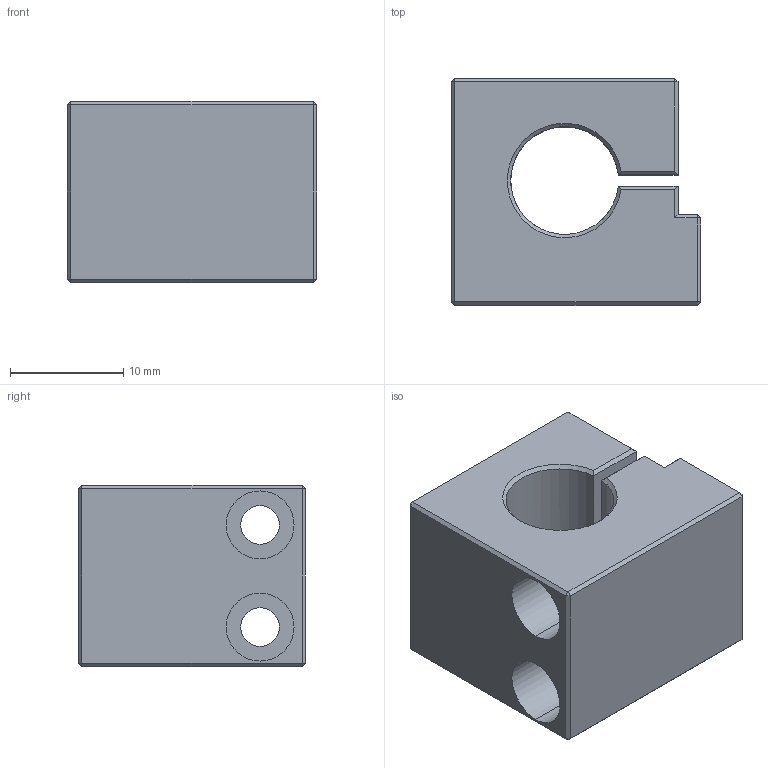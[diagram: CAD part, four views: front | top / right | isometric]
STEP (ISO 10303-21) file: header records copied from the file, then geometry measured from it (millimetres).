
FILE_DESCRIPTION (( 'STEP AP214' ), '1' );
FILE_NAME ('峚煦芛坶踡輸.STEP', '2026-10-12T08:38:03', ( '' ), ( '' ), 'SwSTEP 2.0', 'SolidWorks 2024', '' );
FILE_SCHEMA (( 'AUTOMOTIVE_DESIGN' ));
Length unit declared in the file: millimetre
Products named in the file (1): 微分头锁紧块
Bounding box: 22 x 20 x 16 mm (x, y, z)
Volume: 4687.1 mm3; surface area: 3205 mm2
Topology: 1 solids, 1 shells, 72 faces, 158 edges, 89 vertices
Faces by surface type: plane 52, cylinder 14, cone 6
Entity records: 1932 total; most frequent: DIRECTION 331, CARTESIAN_POINT 330, ORIENTED_EDGE 312, EDGE_CURVE 156, VECTOR 119, LINE 119, AXIS2_PLACEMENT_3D 106, VERTEX_POINT 89
